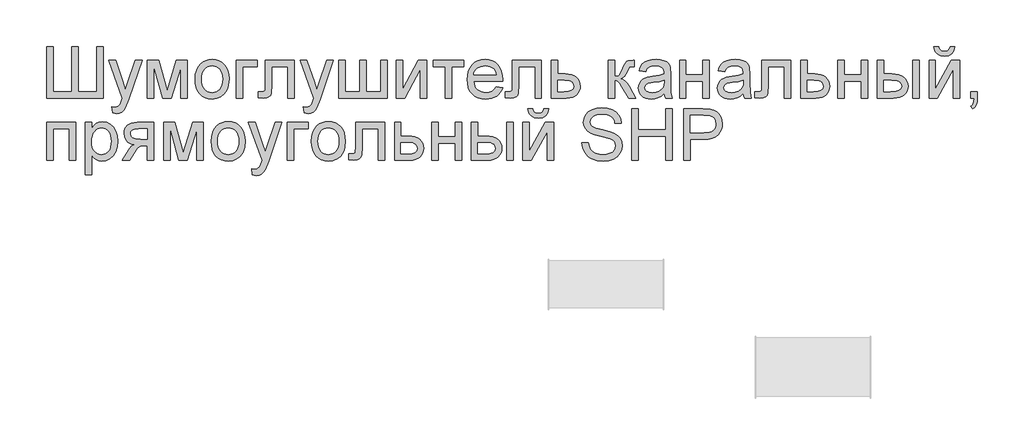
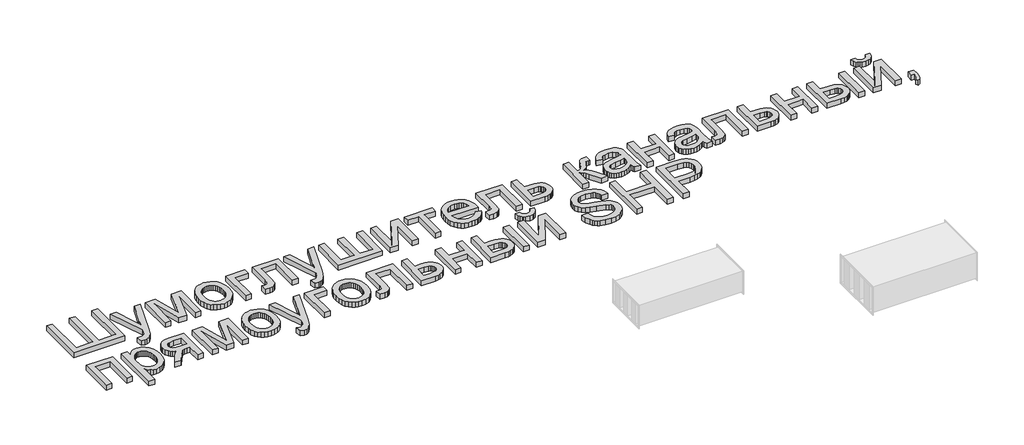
# One storey, part 29 of 31: 1 proxy.
"""IFC4 building model written with IfcOpenShell, lengths in millimetres."""

from ifc_helpers import new_model, si_unit, origin, origin_with_axes, place, context, project, spatial, polyline, outline, extrude, element, save

model = new_model("IFC4")

# Units and contexts
model_context = context("Model", 3, world=origin())
ifc_project = project(units=[si_unit("LENGTHUNIT", "METRE", prefix="MILLI")], contexts=[model_context])

# Site, building, storey
site = spatial("IfcSite", under=ifc_project)
building = spatial("IfcBuilding", under=site)
storey = spatial("IfcBuildingStorey", under=building, Name="Этаж 01", Elevation=0.0)

# Proxy
placement = place(None, origin())
element("IfcBuildingElementProxy", 1, Name="450 мм Arial", ObjectType="450 мм Arial", at=placement, inside=storey, context=model_context, shape_type="SweptSolid", body=[
    extrude(outline(polyline([(62264.9027856, -2029.8493808), (62321.1098035, -2029.8493808), (62321.1098035, -2423.2985058), (62482.7049798, -2423.2985058), (62482.7049798, -2029.8493808), (62538.9119977, -2029.8493808), (62538.9119977, -2423.2985058), (62700.507174, -2423.2985058), (62700.507174, -2029.8493808), (62756.7141918, -2029.8493808), (62756.7141918, -2479.5055236), (62264.9027856, -2479.5055236), (62264.9027856, -2029.8493808)])), origin_with_axes(), (0.0, 0.0, 1.0), 50.0),
    extrude(outline(polyline([(62841.0247186, -2605.9713138), (62833.9988414, -2551.8501033), (62862.5414676, -2556.7901732), (62877.5537913, -2555.2395401), (62889.2178453, -2550.5876409), (62905.5749657, -2533.2973962), (62920.9440721, -2491.9105881), (62925.3352454, -2478.297951), (62805.8953325, -2149.2892938), (62865.1761716, -2149.2892938), (62928.518846, -2332.6207778), (62950.5844917, -2405.9533714), (62972.6501374, -2341.1835656), (63037.7492811, -2149.2892938), (63096.5910029, -2149.2892938), (62981.6520426, -2487.4096355), (62951.7920643, -2560.7422291), (62936.5052924, -2584.1526716), (62919.1876028, -2600.3725679), (62899.0705403, -2609.8410352), (62875.3856495, -2612.997191), (62841.0247186, -2605.9713138)])), origin_with_axes(), (0.0, 0.0, 1.0), 50.0),
    extrude(outline(polyline([(63143.1374396, -2149.2892938), (63239.8530308, -2149.2892938), (63314.3931971, -2413.6379246), (63394.7516679, -2149.2892938), (63487.4054239, -2149.2892938), (63487.4054239, -2479.5055236), (63431.1984061, -2479.5055236), (63431.1984061, -2213.6199822), (63350.4008179, -2479.5055236), (63276.629107, -2479.5055236), (63199.3444574, -2200.8855797), (63199.3444574, -2479.5055236), (63143.1374396, -2479.5055236), (63143.1374396, -2149.2892938)])), origin_with_axes(), (0.0, 0.0, 1.0), 50.0),
    extrude(outline(polyline([(63557.6641962, -2314.3974087), (63560.7037115, -2271.6314978), (63569.8222572, -2234.7799484), (63585.0198335, -2203.8427604), (63606.2964402, -2178.819934), (63627.7171323, -2162.8264576), (63651.3608559, -2151.4025459), (63677.2276109, -2144.5481989), (63705.3173974, -2142.2634165), (63736.326628, -2145.0456365), (63764.3649555, -2153.3922963), (63789.4323798, -2167.303396), (63811.5289009, -2186.7789355), (63829.5635867, -2211.160239), (63842.4455052, -2239.7886304), (63850.1746563, -2272.6641096), (63852.75104, -2309.7866768), (63848.1951977, -2366.5700361), (63842.5003949, -2389.8775605), (63834.5276709, -2409.795648), (63812.1464096, -2442.1668284), (63781.449364, -2466.3868935), (63744.9889034, -2481.495274), (63705.3173974, -2486.5314009), (63673.8553271, -2483.7594727), (63645.5562737, -2475.4436884), (63620.4202373, -2461.5840477), (63598.447218, -2442.1805508), (63580.604646, -2417.5625357), (63567.8599517, -2388.0593403), (63560.2131351, -2353.6709646), (63557.6641962, -2314.3974087)]), holes=[polyline([(63613.8712141, -2314.2876294), (63615.4973204, -2341.5506403), (63620.3756395, -2365.1566272), (63628.5061712, -2385.1055902), (63639.8889157, -2401.3975291), (63653.7348339, -2414.0530277), (63669.2548869, -2423.0926695), (63686.4490748, -2428.5164546), (63705.3173974, -2430.324383), (63724.0896632, -2428.5061628), (63741.2152389, -2423.0515023), (63756.6941247, -2413.9604014), (63770.5263205, -2401.2328601), (63781.9090649, -2384.7796828), (63790.0395967, -2364.5116736), (63794.9179158, -2340.4288327), (63796.5440221, -2312.5311601), (63794.9076239, -2286.1326614), (63789.9984294, -2263.1441832), (63781.8164386, -2243.5657255), (63770.3616515, -2227.3972883), (63756.4779966, -2214.7417897), (63741.0094027, -2205.7021479), (63723.9558696, -2200.2783627), (63705.3173974, -2198.4704344), (63686.4490748, -2200.2715015), (63669.2548869, -2205.674703), (63653.7348339, -2214.6800388), (63639.8889157, -2227.287509), (63628.5061712, -2243.5314195), (63620.3756395, -2263.4460764), (63615.4973204, -2287.0314797), (63613.8712141, -2314.2876294)])]), origin_with_axes(), (0.0, 0.0, 1.0), 50.0),
    extrude(outline(polyline([(63915.983935, -2149.2892938), (64098.6567431, -2149.2892938), (64098.6567431, -2205.4963116), (63972.1909529, -2205.4963116), (63972.1909529, -2479.5055236), (63915.983935, -2479.5055236), (63915.983935, -2149.2892938)])), origin_with_axes(), (0.0, 0.0, 1.0), 50.0),
    extrude(outline(polyline([(64168.9155154, -2149.2892938), (64421.8470957, -2149.2892938), (64421.8470957, -2479.1761856), (64365.6400779, -2479.1761856), (64365.6400779, -2205.4963116), (64225.1225332, -2205.4963116), (64225.1225332, -2363.0296527), (64221.3351463, -2435.7035703), (64214.240657, -2452.1567476), (64200.5319629, -2466.3868935), (64179.7287796, -2476.2258661), (64151.3508223, -2479.5055236), (64105.6826203, -2476.651261), (64105.6826203, -2423.2985058), (64130.8220873, -2423.2985058), (64156.2360026, -2419.8404568), (64162.5894814, -2415.3669491), (64166.3905907, -2408.8625237), (64168.9155154, -2359.846052), (64168.9155154, -2149.2892938)])), origin_with_axes(), (0.0, 0.0, 1.0), 50.0),
    extrude(outline(polyline([(64506.1576225, -2605.9713138), (64499.1317453, -2551.8501033), (64527.6743715, -2556.7901732), (64542.6866951, -2555.2395401), (64554.3507491, -2550.5876409), (64570.7078696, -2533.2973962), (64586.076976, -2491.9105881), (64590.4681493, -2478.297951), (64471.0282363, -2149.2892938), (64530.3090755, -2149.2892938), (64593.6517499, -2332.6207778), (64615.7173956, -2405.9533714), (64637.7830412, -2341.1835656), (64702.882185, -2149.2892938), (64761.7239068, -2149.2892938), (64646.7849465, -2487.4096355), (64616.9249682, -2560.7422291), (64601.6381963, -2584.1526716), (64584.3205067, -2600.3725679), (64564.2034441, -2609.8410352), (64540.5185533, -2612.997191), (64506.1576225, -2605.9713138)])), origin_with_axes(), (0.0, 0.0, 1.0), 50.0),
    extrude(outline(polyline([(64808.2703434, -2149.2892938), (64864.4773613, -2149.2892938), (64864.4773613, -2423.2985058), (64990.9431515, -2423.2985058), (64990.9431515, -2149.2892938), (65047.1501693, -2149.2892938), (65047.1501693, -2423.2985058), (65173.6159595, -2423.2985058), (65173.6159595, -2149.2892938), (65229.8229773, -2149.2892938), (65229.8229773, -2479.5055236), (64808.2703434, -2479.5055236), (64808.2703434, -2149.2892938)])), origin_with_axes(), (0.0, 0.0, 1.0), 50.0),
    extrude(outline(polyline([(65307.1076269, -2149.2892938), (65363.3146447, -2149.2892938), (65363.3146447, -2401.1230808), (65501.4170441, -2149.2892938), (65574.0909617, -2149.2892938), (65574.0909617, -2479.5055236), (65517.8839438, -2479.5055236), (65517.8839438, -2229.2086473), (65380.6597791, -2479.5055236), (65307.1076269, -2479.5055236), (65307.1076269, -2149.2892938)])), origin_with_axes(), (0.0, 0.0, 1.0), 50.0),
    extrude(outline(polyline([(65630.2979795, -2149.2892938), (65897.2813143, -2149.2892938), (65897.2813143, -2205.4963116), (65791.8931559, -2205.4963116), (65791.8931559, -2479.5055236), (65735.686138, -2479.5055236), (65735.686138, -2205.4963116), (65630.2979795, -2205.4963116), (65630.2979795, -2149.2892938)])), origin_with_axes(), (0.0, 0.0, 1.0), 50.0),
    extrude(outline(polyline([(66177.6577276, -2381.1432424), (66232.7669521, -2388.1691196), (66224.3173742, -2410.2416265), (66212.9106155, -2429.6931519), (66198.5466761, -2446.5236957), (66181.2255559, -2460.7332579), (66161.1256464, -2472.0199455), (66138.4253389, -2480.0818651), (66113.1246336, -2484.9190169), (66085.2235303, -2486.5314009), (66050.3480088, -2483.7491809), (66019.2735967, -2475.4025211), (65992.000294, -2461.4914214), (65968.5281006, -2442.0158818), (65949.6529168, -2417.5179378), (65936.1706426, -2388.5396249), (65928.0812781, -2355.0809429), (65925.3848233, -2317.141892), (65928.1087229, -2277.9163645), (65936.2804219, -2243.3427362), (65949.8999203, -2213.4210071), (65968.967218, -2188.1511772), (65992.3776605, -2168.0752819), (66019.0265932, -2153.7353567), (66048.9140163, -2145.1314016), (66082.0399297, -2142.2634165), (66114.0989251, -2145.1245404), (66143.0909605, -2153.7079119), (66169.0160358, -2168.013531), (66191.8741511, -2188.0413979), (66210.5332069, -2213.2563381), (66223.8611038, -2243.1231776), (66231.857842, -2277.6419162), (66234.5234214, -2316.812554), (66234.1940834, -2331.9621018), (65981.5918411, -2331.9621018), (65984.8474844, -2354.3913915), (65991.3210344, -2374.0350307), (66001.012491, -2390.8930193), (66013.9218543, -2404.9653574), (66029.3355586, -2416.0599311), (66046.5400383, -2423.9846266), (66065.5352932, -2428.7394439), (66086.3213236, -2430.324383), (66116.2361915, -2427.3877859), (66141.4305481, -2418.5779945), (66161.9043935, -2403.3461122), (66177.6577276, -2381.1432424)]), holes=[polyline([(65981.5918411, -2275.7550839), (66178.3164036, -2275.7550839), (66170.7141849, -2246.0597747), (66155.8116406, -2224.817474), (66140.4837014, -2213.2906442), (66123.0425101, -2205.0571943), (66103.4880666, -2200.1171244), (66081.820371, -2198.4704344), (66043.9327791, -2203.7261199), (66012.6045023, -2219.4931764), (66000.1479788, -2230.8930739), (65990.8270274, -2244.0700243), (65984.6416482, -2259.0240276), (65981.5918411, -2275.7550839)])]), origin_with_axes(), (0.0, 0.0, 1.0), 50.0),
    extrude(outline(polyline([(66318.8339482, -2149.2892938), (66571.7655286, -2149.2892938), (66571.7655286, -2479.1761856), (66515.5585107, -2479.1761856), (66515.5585107, -2205.4963116), (66375.0409661, -2205.4963116), (66375.0409661, -2363.0296527), (66371.2535791, -2435.7035703), (66364.1590898, -2452.1567476), (66350.4503958, -2466.3868935), (66329.6472124, -2476.2258661), (66301.2692551, -2479.5055236), (66255.6010531, -2476.651261), (66255.6010531, -2423.2985058), (66280.7405201, -2423.2985058), (66306.1544354, -2419.8404568), (66312.5079142, -2415.3669491), (66316.3090236, -2408.8625237), (66318.8339482, -2359.846052), (66318.8339482, -2149.2892938)])), origin_with_axes(), (0.0, 0.0, 1.0), 50.0),
    extrude(outline(polyline([(66656.0760553, -2149.2892938), (66712.2830732, -2149.2892938), (66712.2830732, -2268.7292067), (66777.0528789, -2268.7292067), (66806.9540244, -2270.4891066), (66833.2050071, -2275.7688063), (66855.805827, -2284.5683059), (66874.7564842, -2296.8876053), (66889.7413629, -2312.3013096), (66900.4448478, -2330.3840239), (66906.8669387, -2351.1357482), (66909.0076357, -2374.5564825), (66907.1859849, -2395.4522922), (66901.7210325, -2414.7768852), (66892.6127786, -2432.5302615), (66879.8612231, -2448.7124211), (66863.102722, -2462.1844035), (66841.9736312, -2471.807248), (66816.4739508, -2477.5809547), (66786.6036808, -2479.5055236), (66656.0760553, -2479.5055236), (66656.0760553, -2149.2892938)]), holes=[polyline([(66712.2830732, -2423.2985058), (66764.7575938, -2423.2985058), (66805.4720034, -2420.3481862), (66832.5463311, -2411.4972276), (66847.7370461, -2396.3888471), (66852.8006178, -2374.6662618), (66849.0543981, -2356.3056686), (66837.815739, -2340.0857723), (66828.0488091, -2333.4578452), (66813.7328981, -2328.7236115), (66771.454133, -2324.9362245), (66712.2830732, -2324.9362245), (66712.2830732, -2423.2985058)])]), origin_with_axes(), (0.0, 0.0, 1.0), 50.0),
    extrude(outline(polyline([(67154.9133388, -2149.2892938), (67211.1203566, -2149.2892938), (67211.1203566, -2289.8068384), (67233.9819025, -2287.2819138), (67248.7746674, -2279.7071399), (67261.8658527, -2259.9468602), (67279.6226596, -2220.8654181), (67293.93514, -2188.9059101), (67305.2561336, -2170.0924771), (67315.8223943, -2159.841832), (67327.8706759, -2153.5706877), (67368.9830357, -2149.2892938), (67379.7414102, -2149.2892938), (67379.7414102, -2205.8256496), (67364.5918624, -2205.4963116), (67347.0271693, -2206.9783326), (67337.1470295, -2211.4243955), (67317.8258671, -2248.4200303), (67305.9559768, -2273.0792127), (67295.1564351, -2288.4345967), (67282.0789722, -2298.6852418), (67263.3753185, -2308.0302075), (67281.1870151, -2315.9411805), (67298.8340427, -2329.9037393), (67316.3164013, -2349.9178837), (67333.6340908, -2375.9836138), (67393.7931646, -2479.5055236), (67329.9015936, -2479.5055236), (67270.9500924, -2378.1792004), (67255.0320893, -2351.2146521), (67241.3096729, -2335.3103714), (67227.4500322, -2327.5297613), (67211.1203566, -2324.9362245), (67211.1203566, -2479.5055236), (67154.9133388, -2479.5055236), (67154.9133388, -2149.2892938)])), origin_with_axes(), (0.0, 0.0, 1.0), 50.0),
    extrude(outline(polyline([(67639.6988677, -2437.3502602), (67612.8440987, -2460.3764751), (67585.1934295, -2475.4436884), (67556.115629, -2483.7594727), (67524.9794661, -2486.5314009), (67499.953209, -2484.8641273), (67478.0076345, -2479.8623065), (67459.1427425, -2471.5259385), (67443.3585329, -2459.8550233), (67430.8951482, -2445.5905713), (67421.9927305, -2429.4735932), (67416.6512799, -2411.5040888), (67414.8707963, -2391.6820582), (67417.56039, -2368.3813951), (67425.6291708, -2347.2214289), (67438.0754026, -2329.1078392), (67453.8973488, -2314.9463054), (67472.4912231, -2304.2428205), (67493.2532392, -2296.5033776), (67541.8854832, -2288.0503691), (67599.3549633, -2279.1582432), (67639.3695298, -2268.7292067), (67639.6988677, -2256.2143629), (67635.8291463, -2231.1297856), (67624.219982, -2214.7177755), (67598.25717, -2202.5322697), (67562.0848802, -2198.4704344), (67528.602184, -2201.1737504), (67505.2191864, -2209.2836986), (67489.2737384, -2224.2822998), (67478.1036914, -2247.651575), (67421.8966736, -2240.6256978), (67431.6533117, -2209.8874849), (67446.2127956, -2185.7360319), (67466.9336444, -2167.2656593), (67495.1743775, -2153.5706877), (67529.7136998, -2145.0902343), (67569.3303161, -2142.2634165), (67607.3276873, -2144.7608963), (67637.4483914, -2152.2533357), (67660.1589907, -2163.5194396), (67675.9260472, -2177.337913), (67686.3825286, -2194.4223215), (67693.1614023, -2215.4862308), (67695.9058856, -2264.6673714), (67695.9058856, -2334.5968057), (67698.7601482, -2432.2455213), (67709.9576401, -2479.5055236), (67653.7506222, -2479.5055236), (67644.748717, -2459.9648026), (67639.6988677, -2437.3502602)]), holes=[polyline([(67639.6988677, -2324.9362245), (67601.9347776, -2334.2949126), (67549.0211397, -2342.1715796), (67500.6633441, -2351.2832642), (67488.0798882, -2357.5132412), (67478.7623674, -2366.1034739), (67472.9989525, -2376.3952863), (67471.0778142, -2387.7300023), (67475.2631512, -2404.4439056), (67487.8191623, -2418.1388772), (67508.4713991, -2427.2780066), (67536.9454132, -2430.324383), (67567.1347295, -2426.962391), (67593.8111071, -2416.8764149), (67615.4376354, -2402.0150378), (67630.4774039, -2384.326843), (67637.1464983, -2366.1034739), (67639.3695298, -2340.8542276), (67639.6988677, -2324.9362245)])]), origin_with_axes(), (0.0, 0.0, 1.0), 50.0),
    extrude(outline(polyline([(67773.1905351, -2149.2892938), (67829.397553, -2149.2892938), (67829.397553, -2275.7550839), (67976.9409749, -2275.7550839), (67976.9409749, -2149.2892938), (68033.1479927, -2149.2892938), (68033.1479927, -2479.5055236), (67976.9409749, -2479.5055236), (67976.9409749, -2331.9621018), (67829.397553, -2331.9621018), (67829.397553, -2479.5055236), (67773.1905351, -2479.5055236), (67773.1905351, -2149.2892938)])), origin_with_axes(), (0.0, 0.0, 1.0), 50.0),
    extrude(outline(polyline([(68328.2348364, -2437.3502602), (68301.3800674, -2460.3764751), (68273.7293982, -2475.4436884), (68244.6515977, -2483.7594727), (68213.5154348, -2486.5314009), (68188.4891777, -2484.8641273), (68166.5436032, -2479.8623065), (68147.6787112, -2471.5259385), (68131.8945016, -2459.8550233), (68119.4311169, -2445.5905713), (68110.5286992, -2429.4735932), (68105.1872486, -2411.5040888), (68103.406765, -2391.6820582), (68106.0963587, -2368.3813951), (68114.1651395, -2347.2214289), (68126.6113713, -2329.1078392), (68142.4333175, -2314.9463054), (68161.0271918, -2304.2428205), (68181.7892079, -2296.5033776), (68230.4214519, -2288.0503691), (68287.890932, -2279.1582432), (68327.9054984, -2268.7292067), (68328.2348364, -2256.2143629), (68324.365115, -2231.1297856), (68312.7559507, -2214.7177755), (68286.7931387, -2202.5322697), (68250.6208489, -2198.4704344), (68217.1381527, -2201.1737504), (68193.7551551, -2209.2836986), (68177.8097071, -2224.2822998), (68166.6396601, -2247.651575), (68110.4326423, -2240.6256978), (68120.1892804, -2209.8874849), (68134.7487642, -2185.7360319), (68155.4696131, -2167.2656593), (68183.7103462, -2153.5706877), (68218.2496684, -2145.0902343), (68257.8662848, -2142.2634165), (68295.863656, -2144.7608963), (68325.9843601, -2152.2533357), (68348.6949594, -2163.5194396), (68364.4620159, -2177.337913), (68374.9184973, -2194.4223215), (68381.697371, -2215.4862308), (68384.4418543, -2264.6673714), (68384.4418543, -2334.5968057), (68387.2961169, -2432.2455213), (68398.4936088, -2479.5055236), (68342.2865909, -2479.5055236), (68333.2846857, -2459.9648026), (68328.2348364, -2437.3502602)]), holes=[polyline([(68328.2348364, -2324.9362245), (68290.4707463, -2334.2949126), (68237.5571084, -2342.1715796), (68189.1993128, -2351.2832642), (68176.6158569, -2357.5132412), (68167.2983361, -2366.1034739), (68161.5349212, -2376.3952863), (68159.6137829, -2387.7300023), (68163.7991199, -2404.4439056), (68176.355131, -2418.1388772), (68197.0073678, -2427.2780066), (68225.4813819, -2430.324383), (68255.6706982, -2426.962391), (68282.3470758, -2416.8764149), (68303.9736041, -2402.0150378), (68319.0133726, -2384.326843), (68325.682467, -2366.1034739), (68327.9054984, -2340.8542276), (68328.2348364, -2324.9362245)])]), origin_with_axes(), (0.0, 0.0, 1.0), 50.0),
    extrude(outline(polyline([(68489.8300128, -2149.2892938), (68742.7615931, -2149.2892938), (68742.7615931, -2479.1761856), (68686.5545752, -2479.1761856), (68686.5545752, -2205.4963116), (68546.0370306, -2205.4963116), (68546.0370306, -2363.0296527), (68542.2496437, -2435.7035703), (68535.1551544, -2452.1567476), (68521.4464603, -2466.3868935), (68500.6432769, -2476.2258661), (68472.2653197, -2479.5055236), (68426.5971177, -2476.651261), (68426.5971177, -2423.2985058), (68451.7365846, -2423.2985058), (68477.1504999, -2419.8404568), (68483.5039788, -2415.3669491), (68487.3050881, -2408.8625237), (68489.8300128, -2359.846052), (68489.8300128, -2149.2892938)])), origin_with_axes(), (0.0, 0.0, 1.0), 50.0),
    extrude(outline(polyline([(68827.0721199, -2149.2892938), (68883.2791377, -2149.2892938), (68883.2791377, -2268.7292067), (68948.0489435, -2268.7292067), (68977.9500889, -2270.4891066), (69004.2010716, -2275.7688063), (69026.8018916, -2284.5683059), (69045.7525487, -2296.8876053), (69060.7374275, -2312.3013096), (69071.4409123, -2330.3840239), (69077.8630032, -2351.1357482), (69080.0037002, -2374.5564825), (69078.1820494, -2395.4522922), (69072.7170971, -2414.7768852), (69063.6088431, -2432.5302615), (69050.8572876, -2448.7124211), (69034.0987865, -2462.1844035), (69012.9696958, -2471.807248), (68987.4700154, -2477.5809547), (68957.5997453, -2479.5055236), (68827.0721199, -2479.5055236), (68827.0721199, -2149.2892938)]), holes=[polyline([(68883.2791377, -2423.2985058), (68935.7536583, -2423.2985058), (68976.468068, -2420.3481862), (69003.5423957, -2411.4972276), (69018.7331107, -2396.3888471), (69023.7966824, -2374.6662618), (69020.0504627, -2356.3056686), (69008.8118036, -2340.0857723), (68999.0448737, -2333.4578452), (68984.7289627, -2328.7236115), (68942.4501975, -2324.9362245), (68883.2791377, -2324.9362245), (68883.2791377, -2423.2985058)])]), origin_with_axes(), (0.0, 0.0, 1.0), 50.0),
    extrude(outline(polyline([(69150.2624725, -2149.2892938), (69206.4694904, -2149.2892938), (69206.4694904, -2275.7550839), (69354.0129122, -2275.7550839), (69354.0129122, -2149.2892938), (69410.2199301, -2149.2892938), (69410.2199301, -2479.5055236), (69354.0129122, -2479.5055236), (69354.0129122, -2331.9621018), (69206.4694904, -2331.9621018), (69206.4694904, -2479.5055236), (69150.2624725, -2479.5055236), (69150.2624725, -2149.2892938)])), origin_with_axes(), (0.0, 0.0, 1.0), 50.0),
    extrude(outline(polyline([(69803.6690551, -2149.2892938), (69859.8760729, -2149.2892938), (69859.8760729, -2479.5055236), (69803.6690551, -2479.5055236), (69803.6690551, -2149.2892938)])), origin_with_axes(), (0.0, 0.0, 1.0), 50.0),
    extrude(outline(polyline([(69494.5304569, -2149.2892938), (69550.7374747, -2149.2892938), (69550.7374747, -2268.7292067), (69620.2277917, -2268.7292067), (69652.2044527, -2270.4891066), (69680.2908086, -2275.7688063), (69704.4868594, -2284.5683059), (69724.7926052, -2296.8876053), (69740.8581243, -2312.3013096), (69752.333495, -2330.3840239), (69759.2187175, -2351.1357482), (69761.5137917, -2374.5564825), (69759.5892228, -2395.4522922), (69753.815516, -2414.7768852), (69744.1926715, -2432.5302615), (69730.7206891, -2448.7124211), (69713.0222025, -2462.1844035), (69690.7198451, -2471.807248), (69663.813617, -2477.5809547), (69632.3035182, -2479.5055236), (69494.5304569, -2479.5055236), (69494.5304569, -2149.2892938)]), holes=[polyline([(69550.7374747, -2423.2985058), (69608.4814032, -2423.2985058), (69653.2439257, -2420.3481862), (69683.0215695, -2411.4972276), (69699.7354727, -2396.3888471), (69705.3067738, -2374.6662618), (69701.1763265, -2356.3056686), (69688.7849844, -2340.0857723), (69678.0300405, -2333.4578452), (69662.2869982, -2328.7236115), (69615.8366184, -2324.9362245), (69550.7374747, -2324.9362245), (69550.7374747, -2423.2985058)])]), origin_with_axes(), (0.0, 0.0, 1.0), 50.0),
    extrude(outline(polyline([(69944.1865997, -2149.2892938), (70000.3936175, -2149.2892938), (70000.3936175, -2401.1230808), (70138.4960169, -2149.2892938), (70211.1699345, -2149.2892938), (70211.1699345, -2479.5055236), (70154.9629166, -2479.5055236), (70154.9629166, -2229.2086473), (70017.738752, -2479.5055236), (69944.1865997, -2479.5055236), (69944.1865997, -2149.2892938)])), origin_with_axes(), (0.0, 0.0, 1.0), 50.0),
    extrude(outline(polyline([(70126.8594077, -2029.8493808), (70169.0146711, -2029.8493808), (70159.9441538, -2065.8432792), (70151.9817217, -2080.2895532), (70141.7345072, -2092.3687102), (70129.4083466, -2101.9023591), (70115.2090761, -2108.7121083), (70081.1912057, -2114.1599076), (70044.2779054, -2108.7532755), (70028.9293826, -2101.9949854), (70015.6529447, -2092.5333792), (70004.6407054, -2080.5056812), (69996.0847788, -2066.0491155), (69986.3418631, -2029.8493808), (70028.4971265, -2029.8493808), (70034.4252104, -2048.3609206), (70044.3053502, -2061.520718), (70058.1924357, -2069.3836627), (70076.1413564, -2072.0046442), (70096.3956431, -2069.4659972), (70111.0511839, -2061.850056), (70120.9313238, -2048.7725931), (70126.8594077, -2029.8493808)])), origin_with_axes(), (0.0, 0.0, 1.0), 50.0),
    extrude(outline(polyline([(70309.5322157, -2479.5055236), (70309.5322157, -2423.2985058), (70365.7392336, -2423.2985058), (70365.7392336, -2479.5055236), (70363.2143089, -2511.6571454), (70355.6395351, -2536.9750038), (70342.5757946, -2556.3922231), (70323.5839702, -2570.8419276), (70309.5322157, -2549.764296), (70321.7177215, -2539.5822629), (70330.1707301, -2525.5030636), (70335.3029139, -2505.9897874), (70337.5259453, -2479.5055236), (70309.5322157, -2479.5055236)])), origin_with_axes(), (0.0, 0.0, 1.0), 50.0),
    extrude(outline(polyline([(62264.9027856, -2689.7213769), (62517.834366, -2689.7213769), (62517.834366, -3019.9376068), (62461.6273481, -3019.9376068), (62461.6273481, -2745.9283948), (62321.1098035, -2745.9283948), (62321.1098035, -3019.9376068), (62264.9027856, -3019.9376068), (62264.9027856, -2689.7213769)])), origin_with_axes(), (0.0, 0.0, 1.0), 50.0),
    extrude(outline(polyline([(62602.1448927, -3146.403397), (62602.1448927, -2689.7213769), (62658.3519106, -2689.7213769), (62658.3519106, -2744.8306015), (62676.685059, -2717.6464944), (62697.213794, -2698.2292751), (62721.1456884, -2686.5789436), (62749.6883146, -2682.6954997), (62787.6994082, -2688.1295766), (62820.9351009, -2704.4318074), (62847.9957062, -2730.614178), (62867.4815376, -2765.6886745), (62879.2553709, -2807.1029274), (62883.179982, -2852.3045672), (62878.7476415, -2900.3741921), (62865.4506199, -2943.3665229), (62843.7143122, -2979.0996954), (62813.9641133, -3005.3918454), (62779.3150118, -3021.5705744), (62742.881996, -3026.963484), (62717.0426858, -3023.3544885), (62693.9753037, -3012.5275019), (62674.2287465, -2996.1841039), (62658.3519106, -2976.0258741), (62658.3519106, -3146.403397), (62602.1448927, -3146.403397)]), holes=[polyline([(62658.3519106, -2857.4641958), (62659.8716682, -2884.5522459), (62664.4309411, -2907.8529091), (62672.0297292, -2927.3661853), (62682.6680326, -2943.0920746), (62695.4744777, -2955.1952459), (62709.5776913, -2963.8403683), (62724.9776732, -2969.0274417), (62741.6744234, -2970.7564662), (62758.6113159, -2968.9656908), (62774.2926073, -2963.5933648), (62788.7182976, -2954.6394881), (62801.8883869, -2942.1040606), (62812.8628894, -2925.8086911), (62820.7018198, -2905.574988), (62825.4051781, -2881.4029514), (62826.9729642, -2853.2925812), (62825.4429147, -2826.4378122), (62820.8527664, -2803.1783163), (62813.2025192, -2783.5140935), (62802.4921732, -2767.4451438), (62789.6548526, -2754.9577448), (62775.6236817, -2746.0381741), (62760.3986607, -2740.6864317), (62743.9797894, -2738.9025176), (62727.6123771, -2740.7996416), (62712.2123952, -2746.4910139), (62697.7798437, -2755.9766342), (62684.3147226, -2769.2565028), (62672.9559923, -2786.1522281), (62664.8426136, -2806.4854187), (62659.9745863, -2830.2560746), (62658.3519106, -2857.4641958)])]), origin_with_axes(), (0.0, 0.0, 1.0), 50.0),
    extrude(outline(polyline([(63199.3444574, -2689.7213769), (63199.3444574, -3019.9376068), (63143.1374396, -3019.9376068), (63143.1374396, -2893.4718166), (63112.509006, -2893.4718166), (63088.0831047, -2895.2557308), (63070.79286, -2900.6074732), (63054.1338464, -2916.1686935), (63031.6016385, -2948.5810412), (62986.8116712, -3019.9376068), (62921.8223068, -3019.9376068), (62978.2488833, -2929.6989961), (63003.1687916, -2897.3140933), (63014.8877353, -2887.8730707), (63026.1126719, -2882.9330008), (63005.4741576, -2878.3702973), (62987.6899058, -2871.1591675), (62972.7599167, -2861.2996112), (62960.6841902, -2848.7916286), (62944.7112974, -2819.0414297), (62939.3869999, -2785.1196162), (62941.20522, -2764.8790519), (62946.6598806, -2746.6419604), (62955.7509815, -2730.4083418), (62968.4785228, -2716.1781959), (62984.6503906, -2704.6033376), (63004.0744711, -2696.3355817), (63026.7507643, -2691.3749281), (63052.6792702, -2689.7213769), (63199.3444574, -2689.7213769)]), holes=[polyline([(63143.1374396, -2745.9283948), (63069.0363906, -2745.9283948), (63030.7645711, -2749.1806075), (63017.8346242, -2753.2458734), (63009.0419858, -2758.9372456), (62998.9560097, -2773.0576121), (62995.5940177, -2789.4010102), (63000.5478101, -2810.8217023), (63015.4091871, -2825.6830793), (63042.8677424, -2834.3693689), (63085.6130697, -2837.2647988), (63143.1374396, -2837.2647988), (63143.1374396, -2745.9283948)])]), origin_with_axes(), (0.0, 0.0, 1.0), 50.0),
    extrude(outline(polyline([(63283.6549842, -2689.7213769), (63380.3705755, -2689.7213769), (63454.9107417, -2954.0700078), (63535.2692126, -2689.7213769), (63627.9229685, -2689.7213769), (63627.9229685, -3019.9376068), (63571.7159507, -3019.9376068), (63571.7159507, -2754.0520653), (63490.9183625, -3019.9376068), (63417.1466516, -3019.9376068), (63339.8620021, -2741.3176629), (63339.8620021, -3019.9376068), (63283.6549842, -3019.9376068), (63283.6549842, -2689.7213769)])), origin_with_axes(), (0.0, 0.0, 1.0), 50.0),
    extrude(outline(polyline([(63698.1817409, -2854.8294919), (63701.2212561, -2812.063581), (63710.3398019, -2775.2120315), (63725.5373781, -2744.2748436), (63746.8139848, -2719.2520172), (63768.2346769, -2703.2585408), (63791.8784005, -2691.8346291), (63817.7451555, -2684.980282), (63845.8349421, -2682.6954997), (63876.8441727, -2685.4777196), (63904.8825001, -2693.8243795), (63929.9499244, -2707.7354792), (63952.0464455, -2727.2110187), (63970.0811314, -2751.5923222), (63982.9630498, -2780.2207135), (63990.6922009, -2813.0961928), (63993.2685846, -2850.2187599), (63988.7127423, -2907.0021193), (63983.0179395, -2930.3096437), (63975.0452155, -2950.2277312), (63952.6639543, -2982.5989116), (63921.9669086, -3006.8189767), (63885.5064481, -3021.9273572), (63845.8349421, -3026.963484), (63814.3728717, -3024.1915559), (63786.0738183, -3015.8757715), (63760.937782, -3002.0161309), (63738.9647626, -2982.612634), (63721.1221906, -2957.9946189), (63708.3774963, -2928.4914235), (63700.7306797, -2894.1030478), (63698.1817409, -2854.8294919)]), holes=[polyline([(63754.3887587, -2854.7197125), (63756.0148651, -2881.9827235), (63760.8931841, -2905.5887104), (63769.0237159, -2925.5376733), (63780.4064603, -2941.8296123), (63794.2523786, -2954.4851109), (63809.7724316, -2963.5247527), (63826.9666194, -2968.9485378), (63845.8349421, -2970.7564662), (63864.6072078, -2968.938246), (63881.7327835, -2963.4835855), (63897.2116693, -2954.3924846), (63911.0438651, -2941.6649433), (63922.4266096, -2925.2117659), (63930.5571413, -2904.9437568), (63935.4354604, -2880.8609159), (63937.0615667, -2852.9632432), (63935.4251686, -2826.5647446), (63930.5159741, -2803.5762664), (63922.3339833, -2783.9978087), (63910.8791961, -2767.8293715), (63896.9955413, -2755.1738729), (63881.5269473, -2746.134231), (63864.4734142, -2740.7104459), (63845.8349421, -2738.9025176), (63826.9666194, -2740.7035847), (63809.7724316, -2746.1067862), (63794.2523786, -2755.112122), (63780.4064603, -2767.7195921), (63769.0237159, -2783.9635026), (63760.8931841, -2803.8781595), (63756.0148651, -2827.4635628), (63754.3887587, -2854.7197125)])]), origin_with_axes(), (0.0, 0.0, 1.0), 50.0),
    extrude(outline(polyline([(64056.5014797, -3146.403397), (64049.4756024, -3092.2821864), (64078.0182287, -3097.2222564), (64093.0305523, -3095.6716233), (64104.6946063, -3091.0197241), (64121.0517267, -3073.7294794), (64136.4208332, -3032.3426713), (64140.8120064, -3018.7300342), (64021.3720935, -2689.7213769), (64080.6529327, -2689.7213769), (64143.9956071, -2873.0528609), (64166.0612528, -2946.3854545), (64188.1268984, -2881.6156488), (64253.2260422, -2689.7213769), (64312.067764, -2689.7213769), (64197.1288036, -3027.8417187), (64167.2688254, -3101.1743123), (64151.9820535, -3124.5847548), (64134.6643639, -3140.8046511), (64114.5473013, -3150.2731184), (64090.8624105, -3153.4292742), (64056.5014797, -3146.403397)])), origin_with_axes(), (0.0, 0.0, 1.0), 50.0),
    extrude(outline(polyline([(64358.6142006, -2689.7213769), (64541.2870086, -2689.7213769), (64541.2870086, -2745.9283948), (64414.8212185, -2745.9283948), (64414.8212185, -3019.9376068), (64358.6142006, -3019.9376068), (64358.6142006, -2689.7213769)])), origin_with_axes(), (0.0, 0.0, 1.0), 50.0),
    extrude(outline(polyline([(64569.3905176, -2854.8294919), (64572.4300328, -2812.063581), (64581.5485786, -2775.2120315), (64596.7461548, -2744.2748436), (64618.0227615, -2719.2520172), (64639.4434536, -2703.2585408), (64663.0871772, -2691.8346291), (64688.9539323, -2684.980282), (64717.0437188, -2682.6954997), (64748.0529494, -2685.4777196), (64776.0912768, -2693.8243795), (64801.1587011, -2707.7354792), (64823.2552222, -2727.2110187), (64841.2899081, -2751.5923222), (64854.1718265, -2780.2207135), (64861.9009776, -2813.0961928), (64864.4773613, -2850.2187599), (64859.921519, -2907.0021193), (64854.2267162, -2930.3096437), (64846.2539922, -2950.2277312), (64823.872731, -2982.5989116), (64793.1756853, -3006.8189767), (64756.7152248, -3021.9273572), (64717.0437188, -3026.963484), (64685.5816484, -3024.1915559), (64657.282595, -3015.8757715), (64632.1465587, -3002.0161309), (64610.1735393, -2982.612634), (64592.3309673, -2957.9946189), (64579.586273, -2928.4914235), (64571.9394564, -2894.1030478), (64569.3905176, -2854.8294919)]), holes=[polyline([(64625.5975354, -2854.7197125), (64627.2236418, -2881.9827235), (64632.1019608, -2905.5887104), (64640.2324926, -2925.5376733), (64651.615237, -2941.8296123), (64665.4611553, -2954.4851109), (64680.9812083, -2963.5247527), (64698.1753961, -2968.9485378), (64717.0437188, -2970.7564662), (64735.8159845, -2968.938246), (64752.9415602, -2963.4835855), (64768.420446, -2954.3924846), (64782.2526418, -2941.6649433), (64793.6353863, -2925.2117659), (64801.765918, -2904.9437568), (64806.6442371, -2880.8609159), (64808.2703434, -2852.9632432), (64806.6339453, -2826.5647446), (64801.7247508, -2803.5762664), (64793.54276, -2783.9978087), (64782.0879728, -2767.8293715), (64768.204318, -2755.1738729), (64752.735724, -2746.134231), (64735.6821909, -2740.7104459), (64717.0437188, -2738.9025176), (64698.1753961, -2740.7035847), (64680.9812083, -2746.1067862), (64665.4611553, -2755.112122), (64651.615237, -2767.7195921), (64640.2324926, -2783.9635026), (64632.1019608, -2803.8781595), (64627.2236418, -2827.4635628), (64625.5975354, -2854.7197125)])]), origin_with_axes(), (0.0, 0.0, 1.0), 50.0),
    extrude(outline(polyline([(64955.8137653, -2689.7213769), (65208.7453456, -2689.7213769), (65208.7453456, -3019.6082688), (65152.5383278, -3019.6082688), (65152.5383278, -2745.9283948), (65012.0207832, -2745.9283948), (65012.0207832, -2903.4617358), (65008.2333962, -2976.1356535), (65001.1389069, -2992.5888308), (64987.4302128, -3006.8189767), (64966.6270295, -3016.6579493), (64938.2490722, -3019.9376068), (64892.5808702, -3017.0833442), (64892.5808702, -2963.730589), (64917.7203372, -2963.730589), (64943.1342525, -2960.27254), (64949.4877313, -2955.7990322), (64953.2888407, -2949.2946068), (64955.8137653, -2900.2781352), (64955.8137653, -2689.7213769)])), origin_with_axes(), (0.0, 0.0, 1.0), 50.0),
    extrude(outline(polyline([(65293.0558724, -2689.7213769), (65349.2628903, -2689.7213769), (65349.2628903, -2809.1612899), (65414.032696, -2809.1612899), (65443.9338415, -2810.9211898), (65470.1848242, -2816.2008895), (65492.7856441, -2825.0003891), (65511.7363013, -2837.3196885), (65526.72118, -2852.7333928), (65537.4246649, -2870.8161071), (65543.8467558, -2891.5678314), (65545.9874528, -2914.9885657), (65544.165802, -2935.8843753), (65538.7008496, -2955.2089683), (65529.5925957, -2972.9623446), (65516.8410402, -2989.1445043), (65500.0825391, -3002.6164866), (65478.9534483, -3012.2393312), (65453.4537679, -3018.0130379), (65423.5834979, -3019.9376068), (65293.0558724, -3019.9376068), (65293.0558724, -2689.7213769)]), holes=[polyline([(65349.2628903, -2963.730589), (65401.7374108, -2963.730589), (65442.4518205, -2960.7802694), (65469.5261482, -2951.9293108), (65484.7168632, -2936.8209303), (65489.7804349, -2915.098345), (65486.0342152, -2896.7377518), (65474.7955561, -2880.5178555), (65465.0286262, -2873.8899283), (65450.7127152, -2869.1556947), (65408.4339501, -2865.3683077), (65349.2628903, -2865.3683077), (65349.2628903, -2963.730589)])]), origin_with_axes(), (0.0, 0.0, 1.0), 50.0),
    extrude(outline(polyline([(65616.2462251, -2689.7213769), (65672.4532429, -2689.7213769), (65672.4532429, -2816.1871671), (65819.9966648, -2816.1871671), (65819.9966648, -2689.7213769), (65876.2036826, -2689.7213769), (65876.2036826, -3019.9376068), (65819.9966648, -3019.9376068), (65819.9966648, -2872.394185), (65672.4532429, -2872.394185), (65672.4532429, -3019.9376068), (65616.2462251, -3019.9376068), (65616.2462251, -2689.7213769)])), origin_with_axes(), (0.0, 0.0, 1.0), 50.0),
    extrude(outline(polyline([(65960.5142094, -2689.7213769), (66016.7212273, -2689.7213769), (66016.7212273, -2809.1612899), (66086.2115443, -2809.1612899), (66118.1882052, -2810.9211898), (66146.2745611, -2816.2008895), (66170.470612, -2825.0003891), (66190.7763577, -2837.3196885), (66206.8418768, -2852.7333928), (66218.3172476, -2870.8161071), (66225.2024701, -2891.5678314), (66227.4975442, -2914.9885657), (66225.5729753, -2935.8843753), (66219.7992686, -2955.2089683), (66210.176424, -2972.9623446), (66196.7044417, -2989.1445043), (66179.005955, -3002.6164866), (66156.7035977, -3012.2393312), (66129.7973696, -3018.0130379), (66098.2872708, -3019.9376068), (65960.5142094, -3019.9376068), (65960.5142094, -2689.7213769)]), holes=[polyline([(66016.7212273, -2963.730589), (66074.4651558, -2963.730589), (66119.2276783, -2960.7802694), (66149.005322, -2951.9293108), (66165.7192253, -2936.8209303), (66171.2905264, -2915.098345), (66167.160079, -2896.7377518), (66154.7687369, -2880.5178555), (66144.013793, -2873.8899283), (66128.2707507, -2869.1556947), (66081.820371, -2865.3683077), (66016.7212273, -2865.3683077), (66016.7212273, -2963.730589)])]), origin_with_axes(), (0.0, 0.0, 1.0), 50.0),
    extrude(outline(polyline([(66269.6528076, -2689.7213769), (66325.8598255, -2689.7213769), (66325.8598255, -3019.9376068), (66269.6528076, -3019.9376068), (66269.6528076, -2689.7213769)])), origin_with_axes(), (0.0, 0.0, 1.0), 50.0),
    extrude(outline(polyline([(66592.8431603, -2570.281464), (66634.9984236, -2570.281464), (66625.9279064, -2606.2753624), (66617.9654742, -2620.7216363), (66607.7182597, -2632.8007934), (66595.3920991, -2642.3344423), (66581.1928287, -2649.1441914), (66547.1749582, -2654.5919908), (66510.2616579, -2649.1853587), (66494.9131351, -2642.4270686), (66481.6366972, -2632.9654624), (66470.624458, -2620.9377644), (66462.0685313, -2606.4811986), (66452.3256156, -2570.281464), (66494.480879, -2570.281464), (66500.4089629, -2588.7930038), (66510.2891028, -2601.9528012), (66524.1761882, -2609.8157458), (66542.125109, -2612.4367274), (66562.3793957, -2609.8980803), (66577.0349365, -2602.2821392), (66586.9150763, -2589.2046763), (66592.8431603, -2570.281464)])), origin_with_axes(), (0.0, 0.0, 1.0), 50.0),
    extrude(outline(polyline([(66410.1703522, -2689.7213769), (66466.3773701, -2689.7213769), (66466.3773701, -2941.555164), (66604.4797694, -2689.7213769), (66677.153687, -2689.7213769), (66677.153687, -3019.9376068), (66620.9466692, -3019.9376068), (66620.9466692, -2769.6407304), (66483.7225045, -3019.9376068), (66410.1703522, -3019.9376068), (66410.1703522, -2689.7213769)])), origin_with_axes(), (0.0, 0.0, 1.0), 50.0),
    extrude(outline(polyline([(66923.0593901, -2865.3683077), (66979.266408, -2865.3683077), (66985.7159437, -2896.5593604), (66997.3799977, -2921.6302152), (67015.575922, -2941.5277191), (67041.6210684, -2957.1987187), (67073.4570746, -2967.3670293), (67109.0255781, -2970.7564662), (67140.3401325, -2968.1903743), (67167.7575206, -2960.4920987), (67189.9741128, -2948.3065929), (67205.6862797, -2932.2788104), (67215.0312453, -2913.8770499), (67218.1462339, -2894.56961), (67215.8134231, -2875.756177), (67208.8149907, -2859.4951135), (67194.5985672, -2845.6217504), (67170.6117832, -2833.9714188), (67088.7712914, -2812.5095595), (67035.0480309, -2798.3068584), (67000.6733777, -2784.7902782), (66972.6933705, -2765.8807883), (66952.8644787, -2742.9643528), (66941.0494781, -2716.5349787), (66937.1111446, -2687.086673), (66941.9826024, -2654.1665959), (66956.596976, -2623.4695502), (66980.5700375, -2597.4518486), (67013.5175595, -2578.5698035), (67053.0655637, -2567.084141), (67096.8400723, -2563.2555868), (67144.2647436, -2567.2625324), (67185.761331, -2579.2833692), (67219.8478135, -2599.0710937), (67245.0421701, -2626.3787025), (67260.9876181, -2659.5046159), (67267.3273745, -2696.7472542), (67211.1203566, -2696.7472542), (67207.3604145, -2678.8120558), (67200.8010994, -2663.2096683), (67191.4424114, -2649.9400916), (67179.2843504, -2639.0033257), (67164.1004966, -2630.4542602), (67145.6644301, -2624.3477849), (67099.0356589, -2619.4626046), (67051.3090944, -2624.2928952), (67033.0651417, -2630.3307585), (67018.5674087, -2638.783767), (66999.630474, -2660.1084022), (66994.8962403, -2672.2733244), (66993.3181624, -2685.439983), (66997.7916702, -2707.0390665), (67011.2121935, -2724.4116458), (67042.9384204, -2739.9454212), (67102.9877149, -2755.8085346), (67164.9581476, -2770.8757479), (67202.4477894, -2784.0218229), (67234.4896319, -2804.4133338), (67256.8434483, -2829.5802456), (67269.9758009, -2859.24811), (67274.3532517, -2893.1424787), (67269.3171249, -2927.7915802), (67254.2087443, -2960.3823193), (67229.6456189, -2988.4309386), (67196.2452572, -3009.4536806), (67156.0797442, -3022.5860332), (67111.2211647, -3026.963484), (67056.1531075, -3022.2429728), (67010.8279659, -3008.081439), (66991.6886255, -2997.4465662), (66974.7242881, -2984.423993), (66959.9349538, -2969.0137193), (66947.3206224, -2951.2157451), (66929.7284845, -2910.7620614), (66923.0593901, -2865.3683077)])), origin_with_axes(), (0.0, 0.0, 1.0), 50.0),
    extrude(outline(polyline([(67358.6637785, -3019.9376068), (67358.6637785, -2570.281464), (67414.8707963, -2570.281464), (67414.8707963, -2752.954272), (67653.7506222, -2752.954272), (67653.7506222, -2570.281464), (67709.9576401, -2570.281464), (67709.9576401, -3019.9376068), (67653.7506222, -3019.9376068), (67653.7506222, -2809.1612899), (67414.8707963, -2809.1612899), (67414.8707963, -3019.9376068), (67358.6637785, -3019.9376068)])), origin_with_axes(), (0.0, 0.0, 1.0), 50.0),
    extrude(outline(polyline([(67808.3199213, -3019.9376068), (67808.3199213, -2570.281464), (67974.9649469, -2570.281464), (68042.1498979, -2574.5628579), (68072.1059331, -2582.5630267), (68096.7651155, -2595.5856), (68116.6214521, -2614.2206415), (68132.1689499, -2639.0582153), (68142.2137588, -2668.3555745), (68145.5620284, -2700.3699721), (68143.3012603, -2727.9726128), (68136.518956, -2753.3659445), (68125.2151154, -2776.5499671), (68109.3897386, -2797.5246807), (68087.6637227, -2814.9109824), (68058.6579649, -2827.3297693), (68022.3724652, -2834.7810414), (67978.8072235, -2837.2647988), (67864.5269392, -2837.2647988), (67864.5269392, -3019.9376068), (67808.3199213, -3019.9376068)]), holes=[polyline([(67864.5269392, -2781.0577809), (67982.1006035, -2781.0577809), (68031.9404201, -2775.8981524), (68050.520572, -2769.4486166), (68064.8742196, -2760.4192666), (68075.5845656, -2749.0502445), (68083.2348128, -2735.5816928), (68087.8249611, -2720.0136113), (68089.3550106, -2702.3460001), (68085.746015, -2677.0967538), (68074.9190284, -2655.7995634), (68058.2188476, -2639.771781), (68036.9902693, -2630.3307585), (67980.7832515, -2626.4884819), (67864.5269392, -2626.4884819), (67864.5269392, -2781.0577809)])]), origin_with_axes(), (0.0, 0.0, 1.0), 50.0),
])

save(model, "model.ifc")
